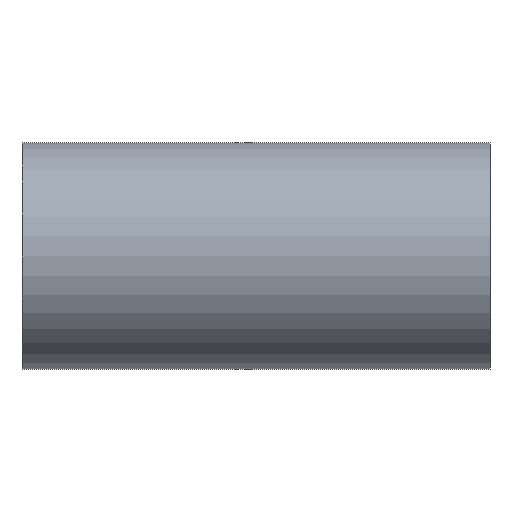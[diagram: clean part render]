
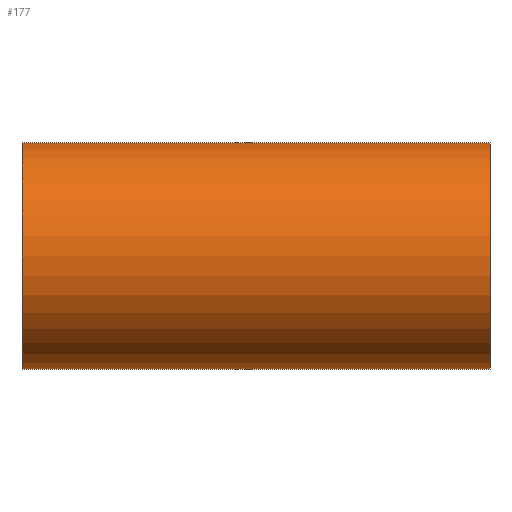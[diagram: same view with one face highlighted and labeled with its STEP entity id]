
A CAD part, front view. The second image highlights one B-rep face of the part: STEP entity #177.
In plain terms, the highlighted cylindrical face has radius 50.8 mm (diameter 101.6 mm), a partial arc.
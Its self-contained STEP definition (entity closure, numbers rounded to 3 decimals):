
#9 = VECTOR ( 'NONE', #182, 1000. ) ;
#25 = EDGE_CURVE ( 'NONE', #312, #405, #103, .T. ) ;
#44 = VECTOR ( 'NONE', #192, 1000. ) ;
#77 = LINE ( 'NONE', #221, #44 ) ;
#83 = AXIS2_PLACEMENT_3D ( 'NONE', #152, #150, #147 ) ;
#103 = CIRCLE ( 'NONE', #199, 50.8 ) ;
#106 = VERTEX_POINT ( 'NONE', #226 ) ;
#129 = CARTESIAN_POINT ( 'NONE',  ( -104.8, 0., -50.8 ) ) ;
#137 = CARTESIAN_POINT ( 'NONE',  ( -104.8, 0., 0. ) ) ;
#142 = EDGE_CURVE ( 'NONE', #302, #106, #314, .T. ) ;
#147 = DIRECTION ( 'NONE',  ( 0., 0., -1. ) ) ;
#150 = DIRECTION ( 'NONE',  ( -1., 0., 0. ) ) ;
#152 = CARTESIAN_POINT ( 'NONE',  ( 104.8, 0., 0. ) ) ;
#153 = CARTESIAN_POINT ( 'NONE',  ( -104.8, 0., 50.8 ) ) ;
#157 = DIRECTION ( 'NONE',  ( 0., 0., -1. ) ) ;
#158 = CARTESIAN_POINT ( 'NONE',  ( 104.8, 0., -50.8 ) ) ;
#177 = ADVANCED_FACE ( 'NONE', ( #354 ), #451, .T. ) ;
#182 = DIRECTION ( 'NONE',  ( 1., 0., 0. ) ) ;
#187 = CARTESIAN_POINT ( 'NONE',  ( -104.8, 0., -50.8 ) ) ;
#192 = DIRECTION ( 'NONE',  ( 1., 0., 0. ) ) ;
#199 = AXIS2_PLACEMENT_3D ( 'NONE', #499, #498, #492 ) ;
#213 = ORIENTED_EDGE ( 'NONE', *, *, #142, .T. ) ;
#221 = CARTESIAN_POINT ( 'NONE',  ( -104.8, 0., 50.8 ) ) ;
#226 = CARTESIAN_POINT ( 'NONE',  ( 104.8, 0., 50.8 ) ) ;
#238 = EDGE_LOOP ( 'NONE', ( #429, #497, #476, #213 ) ) ;
#250 = LINE ( 'NONE', #187, #9 ) ;
#293 = DIRECTION ( 'NONE',  ( 1., 0., 0. ) ) ;
#302 = VERTEX_POINT ( 'NONE', #158 ) ;
#312 = VERTEX_POINT ( 'NONE', #153 ) ;
#314 = CIRCLE ( 'NONE', #83, 50.8 ) ;
#354 = FACE_OUTER_BOUND ( 'NONE', #238, .T. ) ;
#405 = VERTEX_POINT ( 'NONE', #129 ) ;
#429 = ORIENTED_EDGE ( 'NONE', *, *, #501, .F. ) ;
#451 = CYLINDRICAL_SURFACE ( 'NONE', #537, 50.8 ) ;
#476 = ORIENTED_EDGE ( 'NONE', *, *, #509, .T. ) ;
#492 = DIRECTION ( 'NONE',  ( 0., 0., -1. ) ) ;
#497 = ORIENTED_EDGE ( 'NONE', *, *, #25, .T. ) ;
#498 = DIRECTION ( 'NONE',  ( 1., 0., 0. ) ) ;
#499 = CARTESIAN_POINT ( 'NONE',  ( -104.8, 0., 0. ) ) ;
#501 = EDGE_CURVE ( 'NONE', #312, #106, #77, .T. ) ;
#509 = EDGE_CURVE ( 'NONE', #405, #302, #250, .T. ) ;
#537 = AXIS2_PLACEMENT_3D ( 'NONE', #137, #293, #157 ) ;
